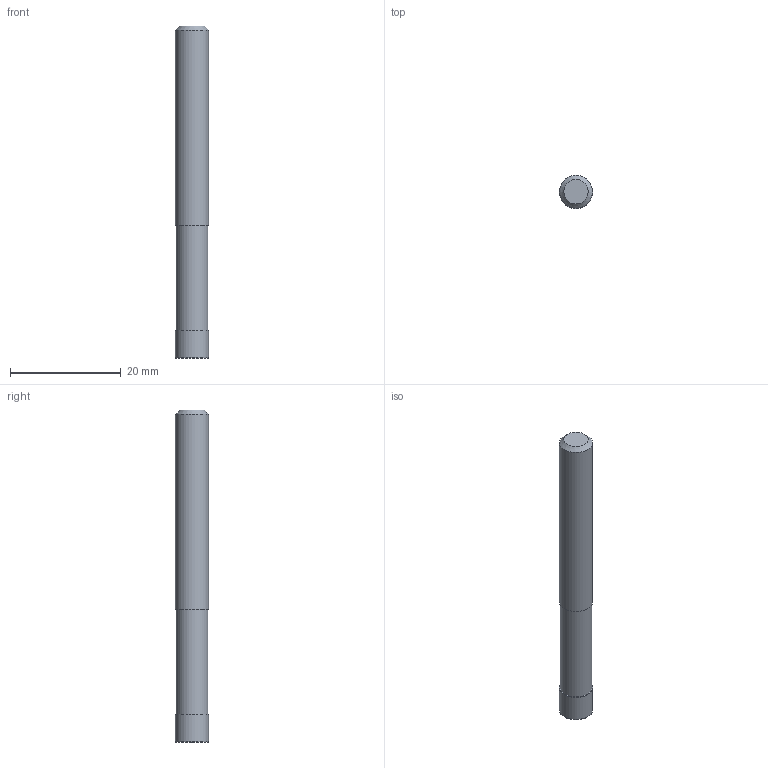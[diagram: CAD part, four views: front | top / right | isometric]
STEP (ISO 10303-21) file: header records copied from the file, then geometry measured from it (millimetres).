
FILE_DESCRIPTION((''),'2;1');
FILE_NAME('C:\Users\nsx150\AppData\Local\Temp\Mastercam 2021\8MCJJJGUOI\TEMP.step','2022-10-12T10:46:36',(''),(''),'STEP Write','Mastercam 2021 ... CNC Software, Inc.','');
FILE_SCHEMA(('AUTOMOTIVE_DESIGN'));
Length unit declared in the file: millimetre
Products named in the file (1): None
Bounding box: 6 x 6 x 60 mm (x, y, z)
Volume: 1638.5 mm3; surface area: 1215.7 mm2
Topology: 2 solids, 2 shells, 10 faces, 13 edges, 8 vertices
Faces by surface type: plane 5, cylinder 3, torus 1, cone 1
Full cylindrical faces by diameter (mm): 5.7 x1, 6 x2
Entity records: 232 total; most frequent: DIRECTION 40, CARTESIAN_POINT 28, AXIS2_PLACEMENT_3D 20, ORIENTED_EDGE 16, EDGE_LOOP 16, STYLED_ITEM 13, ADVANCED_FACE 10, FACE_BOUND 10
